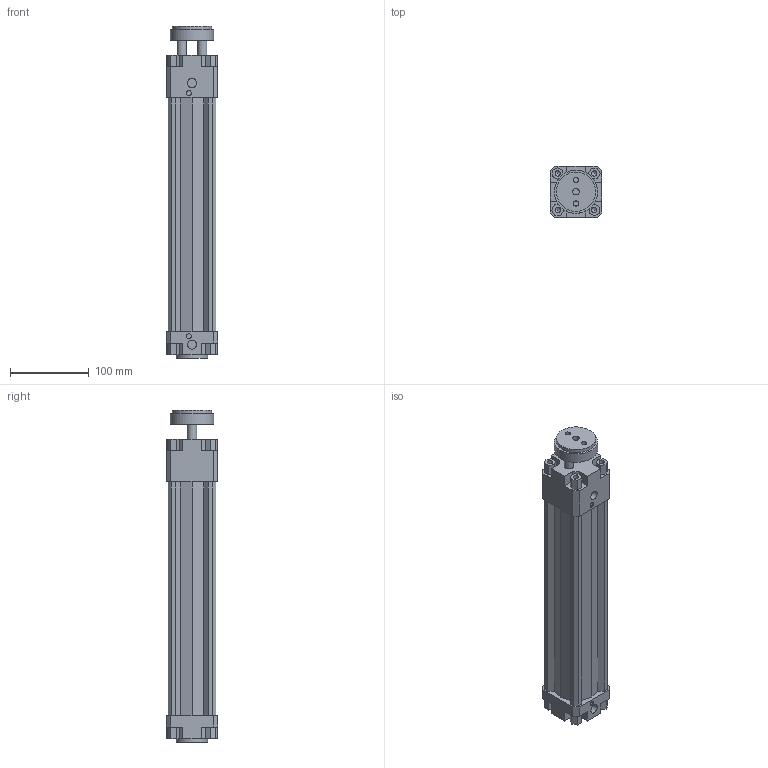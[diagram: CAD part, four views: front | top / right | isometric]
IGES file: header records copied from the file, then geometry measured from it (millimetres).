
Global section: file name: 134#_050_0250_01; native system: Autodesk Inventor 2014; preprocessor: unknown; author: A. Manieri; date: 20161006.164342; units: millimetre
Bounding box: 65 x 65 x 422 mm (x, y, z)
Volume: 833915.1 mm3; surface area: 215882.7 mm2
Topology: 2 solids, 2 shells, 180 faces, 492 edges, 336 vertices
Faces by surface type: bspline 180
